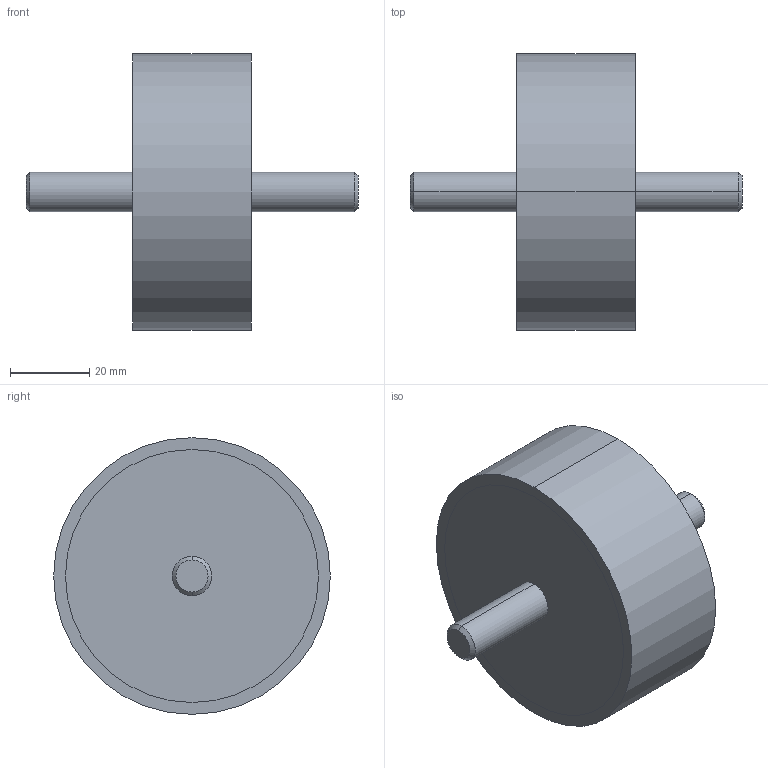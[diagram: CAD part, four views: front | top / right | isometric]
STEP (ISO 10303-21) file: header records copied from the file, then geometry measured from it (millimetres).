
FILE_DESCRIPTION (( 'STEP AP214' ), '1' );
FILE_NAME ('351-70-30-M10-SS-70.step', '2025-07-23T09:46:21', ( '' ), ( '' ), 'SwSTEP 2.0', 'SolidWorks 2022', '' );
FILE_SCHEMA (( 'AUTOMOTIVE_DESIGN' ));
Length unit declared in the file: millimetre
Products named in the file (1): 351-70-30-M10-SS-70
Bounding box: 84 x 70 x 70 mm (x, y, z)
Volume: 119605.4 mm3; surface area: 15958 mm2
Topology: 1 solids, 1 shells, 20 faces, 38 edges, 24 vertices
Faces by surface type: cylinder 10, plane 6, cone 4
Entity records: 636 total; most frequent: DIRECTION 104, CARTESIAN_POINT 83, ORIENTED_EDGE 76, AXIS2_PLACEMENT_3D 45, EDGE_CURVE 38, EDGE_LOOP 24, VERTEX_POINT 24, CIRCLE 24
